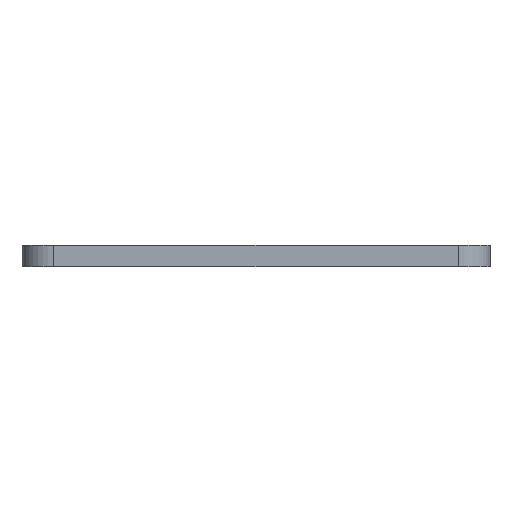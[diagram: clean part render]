
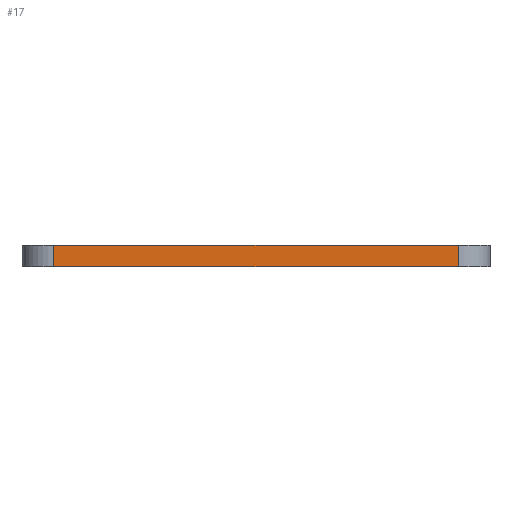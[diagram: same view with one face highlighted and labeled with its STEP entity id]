
A CAD part, front view. The second image highlights one B-rep face of the part: STEP entity #17.
In plain terms, the highlighted planar face has unit normal (0, -1, 0).
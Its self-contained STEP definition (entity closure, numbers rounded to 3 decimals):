
#17 = ADVANCED_FACE('',(#18),#32,.F.);
#18 = FACE_BOUND('',#19,.F.);
#19 = EDGE_LOOP('',(#20,#55,#83,#111));
#20 = ORIENTED_EDGE('',*,*,#21,.T.);
#21 = EDGE_CURVE('',#22,#24,#26,.T.);
#22 = VERTEX_POINT('',#23);
#23 = CARTESIAN_POINT('',(11.,34.,0.));
#24 = VERTEX_POINT('',#25);
#25 = CARTESIAN_POINT('',(11.,34.,2.));
#26 = SURFACE_CURVE('',#27,(#31,#43),.PCURVE_S1.);
#27 = LINE('',#28,#29);
#28 = CARTESIAN_POINT('',(11.,34.,0.));
#29 = VECTOR('',#30,1.);
#30 = DIRECTION('',(0.,0.,1.));
#31 = PCURVE('',#32,#37);
#32 = PLANE('',#33);
#33 = AXIS2_PLACEMENT_3D('',#34,#35,#36);
#34 = CARTESIAN_POINT('',(11.,34.,0.));
#35 = DIRECTION('',(0.,1.,0.));
#36 = DIRECTION('',(1.,0.,0.));
#37 = DEFINITIONAL_REPRESENTATION('',(#38),#42);
#38 = LINE('',#39,#40);
#39 = CARTESIAN_POINT('',(0.,0.));
#40 = VECTOR('',#41,1.);
#41 = DIRECTION('',(0.,-1.));
#42 = ( GEOMETRIC_REPRESENTATION_CONTEXT(2) 
PARAMETRIC_REPRESENTATION_CONTEXT() REPRESENTATION_CONTEXT('2D SPACE',''
  ) );
#43 = PCURVE('',#44,#49);
#44 = CYLINDRICAL_SURFACE('',#45,3.);
#45 = AXIS2_PLACEMENT_3D('',#46,#47,#48);
#46 = CARTESIAN_POINT('',(11.,37.,0.));
#47 = DIRECTION('',(-0.,-0.,-1.));
#48 = DIRECTION('',(-1.,0.,0.));
#49 = DEFINITIONAL_REPRESENTATION('',(#50),#54);
#50 = LINE('',#51,#52);
#51 = CARTESIAN_POINT('',(-1.571,0.));
#52 = VECTOR('',#53,1.);
#53 = DIRECTION('',(-0.,-1.));
#54 = ( GEOMETRIC_REPRESENTATION_CONTEXT(2) 
PARAMETRIC_REPRESENTATION_CONTEXT() REPRESENTATION_CONTEXT('2D SPACE',''
  ) );
#55 = ORIENTED_EDGE('',*,*,#56,.T.);
#56 = EDGE_CURVE('',#24,#57,#59,.T.);
#57 = VERTEX_POINT('',#58);
#58 = CARTESIAN_POINT('',(49.,34.,2.));
#59 = SURFACE_CURVE('',#60,(#64,#71),.PCURVE_S1.);
#60 = LINE('',#61,#62);
#61 = CARTESIAN_POINT('',(11.,34.,2.));
#62 = VECTOR('',#63,1.);
#63 = DIRECTION('',(1.,0.,0.));
#64 = PCURVE('',#32,#65);
#65 = DEFINITIONAL_REPRESENTATION('',(#66),#70);
#66 = LINE('',#67,#68);
#67 = CARTESIAN_POINT('',(0.,-2.));
#68 = VECTOR('',#69,1.);
#69 = DIRECTION('',(1.,0.));
#70 = ( GEOMETRIC_REPRESENTATION_CONTEXT(2) 
PARAMETRIC_REPRESENTATION_CONTEXT() REPRESENTATION_CONTEXT('2D SPACE',''
  ) );
#71 = PCURVE('',#72,#77);
#72 = PLANE('',#73);
#73 = AXIS2_PLACEMENT_3D('',#74,#75,#76);
#74 = CARTESIAN_POINT('',(30.,62.,2.));
#75 = DIRECTION('',(0.,0.,1.));
#76 = DIRECTION('',(1.,0.,-0.));
#77 = DEFINITIONAL_REPRESENTATION('',(#78),#82);
#78 = LINE('',#79,#80);
#79 = CARTESIAN_POINT('',(-19.,-28.));
#80 = VECTOR('',#81,1.);
#81 = DIRECTION('',(1.,0.));
#82 = ( GEOMETRIC_REPRESENTATION_CONTEXT(2) 
PARAMETRIC_REPRESENTATION_CONTEXT() REPRESENTATION_CONTEXT('2D SPACE',''
  ) );
#83 = ORIENTED_EDGE('',*,*,#84,.F.);
#84 = EDGE_CURVE('',#85,#57,#87,.T.);
#85 = VERTEX_POINT('',#86);
#86 = CARTESIAN_POINT('',(49.,34.,0.));
#87 = SURFACE_CURVE('',#88,(#92,#99),.PCURVE_S1.);
#88 = LINE('',#89,#90);
#89 = CARTESIAN_POINT('',(49.,34.,0.));
#90 = VECTOR('',#91,1.);
#91 = DIRECTION('',(0.,0.,1.));
#92 = PCURVE('',#32,#93);
#93 = DEFINITIONAL_REPRESENTATION('',(#94),#98);
#94 = LINE('',#95,#96);
#95 = CARTESIAN_POINT('',(38.,0.));
#96 = VECTOR('',#97,1.);
#97 = DIRECTION('',(0.,-1.));
#98 = ( GEOMETRIC_REPRESENTATION_CONTEXT(2) 
PARAMETRIC_REPRESENTATION_CONTEXT() REPRESENTATION_CONTEXT('2D SPACE',''
  ) );
#99 = PCURVE('',#100,#105);
#100 = CYLINDRICAL_SURFACE('',#101,3.);
#101 = AXIS2_PLACEMENT_3D('',#102,#103,#104);
#102 = CARTESIAN_POINT('',(49.,37.,0.));
#103 = DIRECTION('',(-0.,-0.,-1.));
#104 = DIRECTION('',(0.,-1.,0.));
#105 = DEFINITIONAL_REPRESENTATION('',(#106),#110);
#106 = LINE('',#107,#108);
#107 = CARTESIAN_POINT('',(-0.,0.));
#108 = VECTOR('',#109,1.);
#109 = DIRECTION('',(-0.,-1.));
#110 = ( GEOMETRIC_REPRESENTATION_CONTEXT(2) 
PARAMETRIC_REPRESENTATION_CONTEXT() REPRESENTATION_CONTEXT('2D SPACE',''
  ) );
#111 = ORIENTED_EDGE('',*,*,#112,.F.);
#112 = EDGE_CURVE('',#22,#85,#113,.T.);
#113 = SURFACE_CURVE('',#114,(#118,#125),.PCURVE_S1.);
#114 = LINE('',#115,#116);
#115 = CARTESIAN_POINT('',(11.,34.,0.));
#116 = VECTOR('',#117,1.);
#117 = DIRECTION('',(1.,0.,0.));
#118 = PCURVE('',#32,#119);
#119 = DEFINITIONAL_REPRESENTATION('',(#120),#124);
#120 = LINE('',#121,#122);
#121 = CARTESIAN_POINT('',(0.,0.));
#122 = VECTOR('',#123,1.);
#123 = DIRECTION('',(1.,0.));
#124 = ( GEOMETRIC_REPRESENTATION_CONTEXT(2) 
PARAMETRIC_REPRESENTATION_CONTEXT() REPRESENTATION_CONTEXT('2D SPACE',''
  ) );
#125 = PCURVE('',#126,#131);
#126 = PLANE('',#127);
#127 = AXIS2_PLACEMENT_3D('',#128,#129,#130);
#128 = CARTESIAN_POINT('',(30.,62.,0.));
#129 = DIRECTION('',(0.,0.,1.));
#130 = DIRECTION('',(1.,0.,-0.));
#131 = DEFINITIONAL_REPRESENTATION('',(#132),#136);
#132 = LINE('',#133,#134);
#133 = CARTESIAN_POINT('',(-19.,-28.));
#134 = VECTOR('',#135,1.);
#135 = DIRECTION('',(1.,0.));
#136 = ( GEOMETRIC_REPRESENTATION_CONTEXT(2) 
PARAMETRIC_REPRESENTATION_CONTEXT() REPRESENTATION_CONTEXT('2D SPACE',''
  ) );
